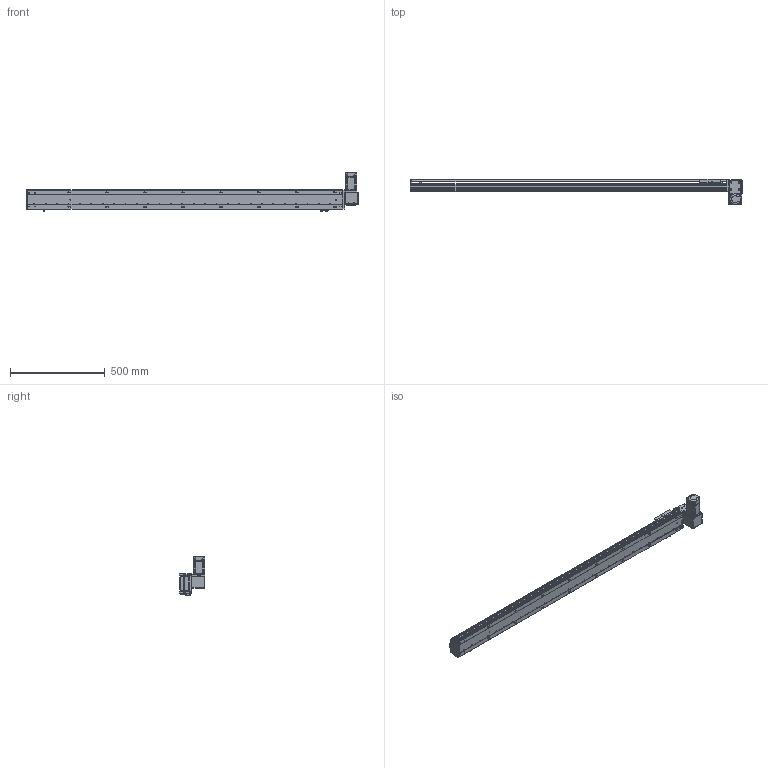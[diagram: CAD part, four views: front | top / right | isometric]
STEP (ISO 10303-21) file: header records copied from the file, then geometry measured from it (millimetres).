
FILE_DESCRIPTION (( 'STEP AP203' ), '1' );
FILE_NAME ('RY100-T-300-DR.SLDASM_1450.step', '2024-04-25T03:23:35', ( '盈信电脑' ), ( '东莞市道滘镇水果街19号' ), 'SwSTEP 2.0', 'SolidWorks 2016', '' );
FILE_SCHEMA (( 'CONFIG_CONTROL_DESIGN' ));
Length unit declared in the file: millimetre
Products named in the file (16): RY100-T-300-DR.SLDASM_1450; RY100-T肮祭謫臏賑輸; 覜茼ん672; RY100-T肮祭謫翋盓傅釱; 1; RY100-T-300-RK倰第奻裔_1450; RY100-T-300-RK倰第菁釱_1450; 滅袉蝶18-10; RY80-T肮祭謫狟殏俋欶; 侂狟200W萇儂; RY100-T左右折电机安装板; RY100-T粣創揤踡裔; RY100-T翋肮祭謫裔啣2; RY100-T翋肮祭謫裔啣; RY100俋离覜茼え; RY100綴裔啣
Assembly tree (19 placements, depth 3):
  RY100-T-300-DR.SLDASM_1450
    RY100-T-300-RK倰第菁釱_1450
    RY100-T-300-RK倰第奻裔_1450
    RY100-T肮祭謫臏賑輸
    RY100綴裔啣
    覜茼ん672  x3
    RY100俋离覜茼え
    RY100-T肮祭謫翋盓傅釱
    RY100-T左右折电机安装板
    侂狟200W萇儂
      1
    RY100-T粣創揤踡裔
    滅袉蝶18-10  x2
    RY100-T翋肮祭謫裔啣2  x2
    RY100-T翋肮祭謫裔啣
    RY80-T肮祭謫狟殏俋欶
Bounding box: 1750 x 135.5 x 209.7 mm (x, y, z)
Volume: 3361813.8 mm3; surface area: 1412551.9 mm2
Topology: 18 solids, 18 shells, 2257 faces, 6282 edges, 4082 vertices
Faces by surface type: plane 1217, cylinder 829, cone 133, bspline 78
Entity records: 72457 total; most frequent: CARTESIAN_POINT 17426, ORIENTED_EDGE 11300, DIRECTION 10782, EDGE_CURVE 5650, VERTEX_POINT 3718, VECTOR 3632, LINE 3632, AXIS2_PLACEMENT_3D 3575
